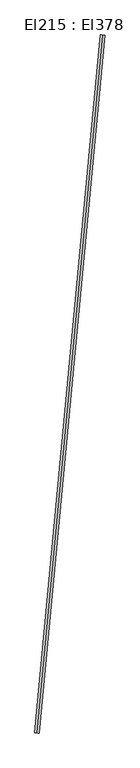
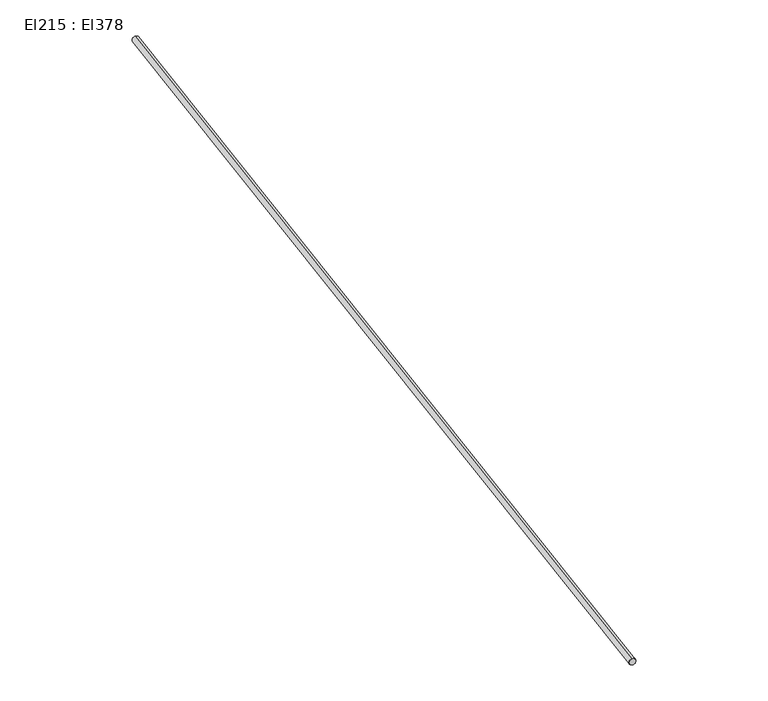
"""IFC4 building model written with IfcOpenShell, lengths in millimetres: cable carrier segment geometry, El215 : El378."""

from ifc_helpers import new_model, si_unit, point, frame, frame_2d, origin, place, context, project, spatial, circle_curve, trimmed, segment, composite_curve, outline, extrude, source, transform, mapped, element, save


def el215_el378_3e00d2e9(model_context):
    return source(origin(), model_context, "Body", "SweptSolid", [
        extrude(outline(composite_curve([segment(trimmed(circle_curve(frame_2d((0.0, -9.5)), 9.5), [point((0.0, -19.0))], [point((0.0, 0.0))], False, "CARTESIAN"), True, "CONTINUOUS"), segment(trimmed(circle_curve(frame_2d((0.0, -9.5)), 9.5), [point((0.0, 0.0))], [point((0.0, -19.0))], False, "CARTESIAN"), True, "CONTINUOUS")], self_intersect=False)), frame((-644.2662048, 16569.02916, 1509.5), z_axis=(0.09403360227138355, 0.99556902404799, 0.0), x_axis=(-0.99556902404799, 0.09403360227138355, 0.0)), (0.0, 0.0, 1.0), 2969.32),
    ])


if __name__ == "__main__":
    model = new_model("IFC4")
    model_context = context("Model", 3, world=origin())
    ifc_project = project(units=[si_unit("LENGTHUNIT", "METRE", prefix="MILLI")], contexts=[model_context])
    site = spatial("IfcSite", under=ifc_project)
    building = spatial("IfcBuilding", under=site)
    placement = place(None, origin())
    el215_el378_shape = el215_el378_3e00d2e9(model_context)
    element("IfcCableCarrierSegment", 1, ObjectType="El215 : El378", at=placement, inside=building, context=model_context, shape_type="MappedRepresentation", body=[
        mapped(el215_el378_shape, transform((0.0, 0.0, 0.0), x_axis=(1.0, 0.0, 0.0), y_axis=(0.0, 1.0, 0.0), z_axis=(0.0, 0.0, 1.0))),
    ])
    save(model, "model.ifc")
